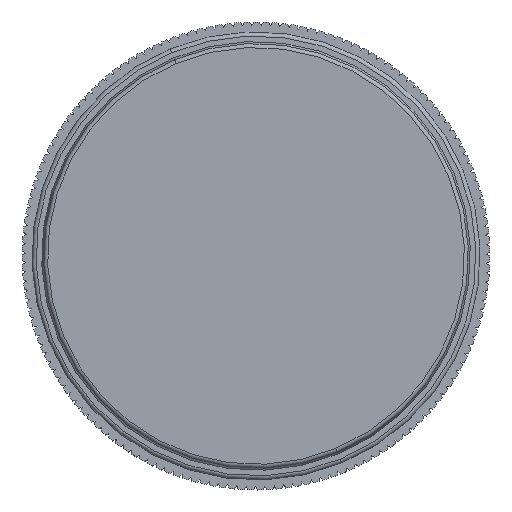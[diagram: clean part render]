
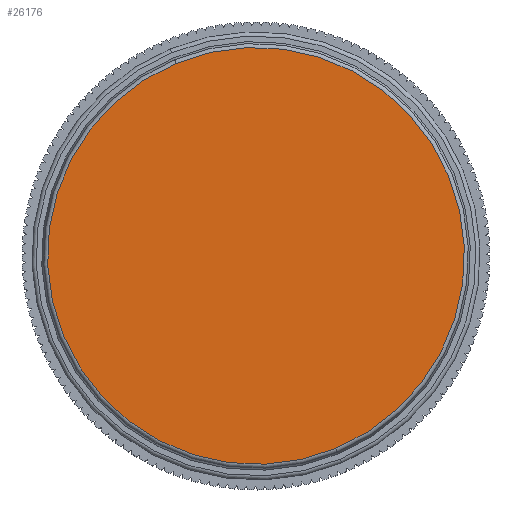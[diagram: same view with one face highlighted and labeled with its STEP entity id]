
A CAD part, top view. The second image highlights one B-rep face of the part: STEP entity #26176.
In plain terms, the highlighted planar face has unit normal (0, 0, 1).
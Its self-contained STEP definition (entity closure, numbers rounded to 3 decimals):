
#671 = AXIS2_PLACEMENT_3D ( 'NONE', #14269, #31704, #11102 ) ;
#747 = CARTESIAN_POINT ( 'NONE',  ( -9.945, -1.357, 28. ) ) ;
#761 = CIRCLE ( 'NONE', #15632, 25.486 ) ;
#4524 = DIRECTION ( 'NONE',  ( 0., 0., -1. ) ) ;
#5537 = CIRCLE ( 'NONE', #22006, 25.486 ) ;
#5905 = DIRECTION ( 'NONE',  ( 0.383, -0.924, 0. ) ) ;
#10229 = CARTESIAN_POINT ( 'NONE',  ( -19.708, 22.185, 28. ) ) ;
#11102 = DIRECTION ( 'NONE',  ( -0.383, 0.924, 0. ) ) ;
#11227 = ORIENTED_EDGE ( 'NONE', *, *, #29043, .F. ) ;
#11839 = VERTEX_POINT ( 'NONE', #23399 ) ;
#14269 = CARTESIAN_POINT ( 'NONE',  ( -0.183, -24.899, 28. ) ) ;
#15632 = AXIS2_PLACEMENT_3D ( 'NONE', #21647, #4524, #32449 ) ;
#16541 = DIRECTION ( 'NONE',  ( 0., 0., -1. ) ) ;
#18942 = ORIENTED_EDGE ( 'NONE', *, *, #28635, .F. ) ;
#21647 = CARTESIAN_POINT ( 'NONE',  ( -9.945, -1.357, 28. ) ) ;
#22006 = AXIS2_PLACEMENT_3D ( 'NONE', #747, #16541, #5905 ) ;
#23399 = CARTESIAN_POINT ( 'NONE',  ( -0.183, -24.899, 28. ) ) ;
#23879 = FACE_OUTER_BOUND ( 'NONE', #28623, .T. ) ;
#26176 = ADVANCED_FACE ( 'NONE', ( #23879 ), #29055, .T. ) ;
#28623 = EDGE_LOOP ( 'NONE', ( #18942, #11227 ) ) ;
#28635 = EDGE_CURVE ( 'NONE', #11839, #32803, #5537, .T. ) ;
#29043 = EDGE_CURVE ( 'NONE', #32803, #11839, #761, .T. ) ;
#29055 = PLANE ( 'NONE',  #671 ) ;
#31704 = DIRECTION ( 'NONE',  ( 0., 0., 1. ) ) ;
#32449 = DIRECTION ( 'NONE',  ( 0.383, -0.924, 0. ) ) ;
#32803 = VERTEX_POINT ( 'NONE', #10229 ) ;
